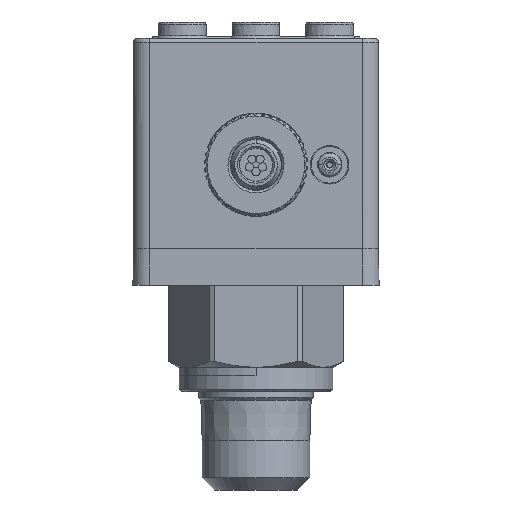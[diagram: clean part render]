
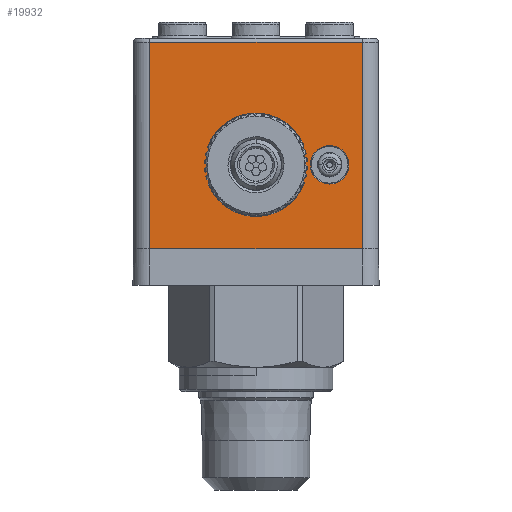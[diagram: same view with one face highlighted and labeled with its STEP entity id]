
A CAD part, front view. The second image highlights one B-rep face of the part: STEP entity #19932.
In plain terms, the highlighted planar face has unit normal (0, -1, 0).
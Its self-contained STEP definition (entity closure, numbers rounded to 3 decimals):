
#1023=DIRECTION('',(1.,0.,0.));
#1024=VECTOR('',#1023,26.);
#1025=CARTESIAN_POINT('',(-13.,-15.,
4.5));
#1026=LINE('',#1025,#1024);
#1035=DIRECTION('',(0.,0.,-1.));
#1036=VECTOR('',#1035,25.2);
#1037=CARTESIAN_POINT('',(-13.,-15.,29.7));
#1038=LINE('',#1037,#1036);
#1039=DIRECTION('',(1.,0.,0.));
#1040=VECTOR('',#1039,26.);
#1041=CARTESIAN_POINT('',(-13.,-15.,29.7));
#1042=LINE('',#1041,#1040);
#1043=DIRECTION('',(0.,0.,-1.));
#1044=VECTOR('',#1043,25.2);
#1045=CARTESIAN_POINT('',(13.,-15.,29.7));
#1046=LINE('',#1045,#1044);
#1047=CARTESIAN_POINT('',(0.,-15.,14.75));
#1048=DIRECTION('',(0.,-1.,0.));
#1049=DIRECTION('',(-0.898,0.,-0.44));
#1050=AXIS2_PLACEMENT_3D('',#1047,#1048,#1049);
#1052=DIRECTION('',(-0.017,0.,-1.));
#1053=VECTOR('',#1052,2.35);
#1054=CARTESIAN_POINT('',(5.8,-15.,14.75));
#1055=LINE('',#1054,#1053);
#1056=DIRECTION('',(0.017,0.,-1.));
#1057=VECTOR('',#1056,2.35);
#1058=CARTESIAN_POINT('',(5.759,-15.,17.1));
#1059=LINE('',#1058,#1057);
#1060=CARTESIAN_POINT('',(0.,-15.,14.75));
#1061=DIRECTION('',(0.,-1.,0.));
#1062=DIRECTION('',(0.898,0.,0.44));
#1063=AXIS2_PLACEMENT_3D('',#1060,#1061,#1062);
#1065=DIRECTION('',(0.017,0.,1.));
#1066=VECTOR('',#1065,2.35);
#1067=CARTESIAN_POINT('',(-5.8,-15.,14.75));
#1068=LINE('',#1067,#1066);
#1069=DIRECTION('',(-0.017,0.,1.));
#1070=VECTOR('',#1069,2.35);
#1071=CARTESIAN_POINT('',(-5.759,-15.,12.4));
#1072=LINE('',#1071,#1070);
#1073=CARTESIAN_POINT('',(9.,-15.,14.75));
#1074=DIRECTION('',(0.,1.,0.));
#1075=DIRECTION('',(-1.,0.,0.));
#1076=AXIS2_PLACEMENT_3D('',#1073,#1074,#1075);
#1078=CARTESIAN_POINT('',(9.,-15.,14.75));
#1079=DIRECTION('',(0.,1.,0.));
#1080=DIRECTION('',(1.,0.,0.));
#1081=AXIS2_PLACEMENT_3D('',#1078,#1079,#1080);
#5939=CARTESIAN_POINT('',(-4.759,-15.,17.083));
#5940=DIRECTION('',(0.,1.,0.));
#5941=DIRECTION('',(-1.,0.,0.017));
#5942=AXIS2_PLACEMENT_3D('',#5939,#5940,#5941);
#7316=CARTESIAN_POINT('',(4.759,-15.,12.417));
#7317=DIRECTION('',(0.,1.,0.));
#7318=DIRECTION('',(1.,0.,-0.017));
#7319=AXIS2_PLACEMENT_3D('',#7316,#7317,#7318);
#8667=CARTESIAN_POINT('',(4.759,-15.,17.083));
#8668=DIRECTION('',(0.,1.,0.));
#8669=DIRECTION('',(0.898,0.,0.44));
#8670=AXIS2_PLACEMENT_3D('',#8667,#8668,#8669);
#12323=CARTESIAN_POINT('',(-4.759,-15.,12.417));
#12324=DIRECTION('',(0.,1.,0.));
#12325=DIRECTION('',(-0.898,0.,-0.44));
#12326=AXIS2_PLACEMENT_3D('',#12323,#12324,#12325);
#16613=CARTESIAN_POINT('',(-13.,-15.,29.7));
#16614=VERTEX_POINT('',#16613);
#16617=CARTESIAN_POINT('',(13.,-15.,29.7));
#16618=VERTEX_POINT('',#16617);
#16719=CARTESIAN_POINT('',(6.643,-15.,14.75));
#16720=CARTESIAN_POINT('',(11.357,-15.,14.75));
#16721=VERTEX_POINT('',#16719);
#16722=VERTEX_POINT('',#16720);
#16932=CARTESIAN_POINT('',(5.759,-15.,17.1));
#16933=CARTESIAN_POINT('',(5.8,-15.,14.75));
#16934=VERTEX_POINT('',#16932);
#16935=VERTEX_POINT('',#16933);
#16936=CARTESIAN_POINT('',(5.759,-15.,12.4));
#16937=VERTEX_POINT('',#16936);
#16938=CARTESIAN_POINT('',(5.657,-15.,17.523));
#16939=VERTEX_POINT('',#16938);
#16940=CARTESIAN_POINT('',(5.657,-15.,11.977));
#16941=VERTEX_POINT('',#16940);
#16951=CARTESIAN_POINT('',(-5.657,-15.,17.523));
#16952=VERTEX_POINT('',#16951);
#16953=CARTESIAN_POINT('',(-5.657,-15.,11.977));
#16954=VERTEX_POINT('',#16953);
#16966=CARTESIAN_POINT('',(-5.759,-15.,12.4));
#16967=CARTESIAN_POINT('',(-5.8,-15.,14.75));
#16968=VERTEX_POINT('',#16966);
#16969=VERTEX_POINT('',#16967);
#16970=CARTESIAN_POINT('',(-5.759,-15.,17.1));
#16971=VERTEX_POINT('',#16970);
#17090=CARTESIAN_POINT('',(-13.,-15.,
4.5));
#17091=CARTESIAN_POINT('',(13.,-15.,
4.5));
#17092=VERTEX_POINT('',#17090);
#17093=VERTEX_POINT('',#17091);
#19891=CARTESIAN_POINT('',(-15.,-15.,2.9));
#19892=DIRECTION('',(0.,-1.,0.));
#19893=DIRECTION('',(1.,0.,0.));
#19894=AXIS2_PLACEMENT_3D('',#19891,#19892,#19893);
#19895=PLANE('',#19894);
#19897=ORIENTED_EDGE('',*,*,#19896,.F.);
#19899=ORIENTED_EDGE('',*,*,#19898,.T.);
#19900=ORIENTED_EDGE('',*,*,#19856,.T.);
#19901=ORIENTED_EDGE('',*,*,#19882,.F.);
#19902=EDGE_LOOP('',(#19897,#19899,#19900,#19901));
#19903=FACE_OUTER_BOUND('',#19902,.F.);
#19905=ORIENTED_EDGE('',*,*,#19904,.T.);
#19907=ORIENTED_EDGE('',*,*,#19906,.F.);
#19909=ORIENTED_EDGE('',*,*,#19908,.F.);
#19911=ORIENTED_EDGE('',*,*,#19910,.F.);
#19913=ORIENTED_EDGE('',*,*,#19912,.F.);
#19915=ORIENTED_EDGE('',*,*,#19914,.T.);
#19917=ORIENTED_EDGE('',*,*,#19916,.F.);
#19919=ORIENTED_EDGE('',*,*,#19918,.F.);
#19921=ORIENTED_EDGE('',*,*,#19920,.F.);
#19923=ORIENTED_EDGE('',*,*,#19922,.F.);
#19924=EDGE_LOOP('',(#19905,#19907,#19909,#19911,#19913,#19915,#19917,#19919,
#19921,#19923));
#19925=FACE_BOUND('',#19924,.F.);
#19927=ORIENTED_EDGE('',*,*,#19926,.F.);
#19929=ORIENTED_EDGE('',*,*,#19928,.F.);
#19930=EDGE_LOOP('',(#19927,#19929));
#19931=FACE_BOUND('',#19930,.F.);
#19932=ADVANCED_FACE('',(#19903,#19925,#19931),#19895,.T.);
#1051=CIRCLE('',#1050,6.3);
#1064=CIRCLE('',#1063,6.3);
#1077=CIRCLE('',#1076,2.357);
#1082=CIRCLE('',#1081,2.357);
#5943=CIRCLE('',#5942,1.);
#7320=CIRCLE('',#7319,1.);
#8671=CIRCLE('',#8670,1.);
#12327=CIRCLE('',#12326,1.);
#19856=EDGE_CURVE('',#16618,#17093,#1046,.T.);
#19882=EDGE_CURVE('',#17092,#17093,#1026,.T.);
#19896=EDGE_CURVE('',#16614,#17092,#1038,.T.);
#19898=EDGE_CURVE('',#16614,#16618,#1042,.T.);
#19904=EDGE_CURVE('',#16954,#16941,#1051,.T.);
#19906=EDGE_CURVE('',#16937,#16941,#7320,.T.);
#19908=EDGE_CURVE('',#16935,#16937,#1055,.T.);
#19910=EDGE_CURVE('',#16934,#16935,#1059,.T.);
#19912=EDGE_CURVE('',#16939,#16934,#8671,.T.);
#19914=EDGE_CURVE('',#16939,#16952,#1064,.T.);
#19916=EDGE_CURVE('',#16971,#16952,#5943,.T.);
#19918=EDGE_CURVE('',#16969,#16971,#1068,.T.);
#19920=EDGE_CURVE('',#16968,#16969,#1072,.T.);
#19922=EDGE_CURVE('',#16954,#16968,#12327,.T.);
#19926=EDGE_CURVE('',#16721,#16722,#1077,.T.);
#19928=EDGE_CURVE('',#16722,#16721,#1082,.T.);
